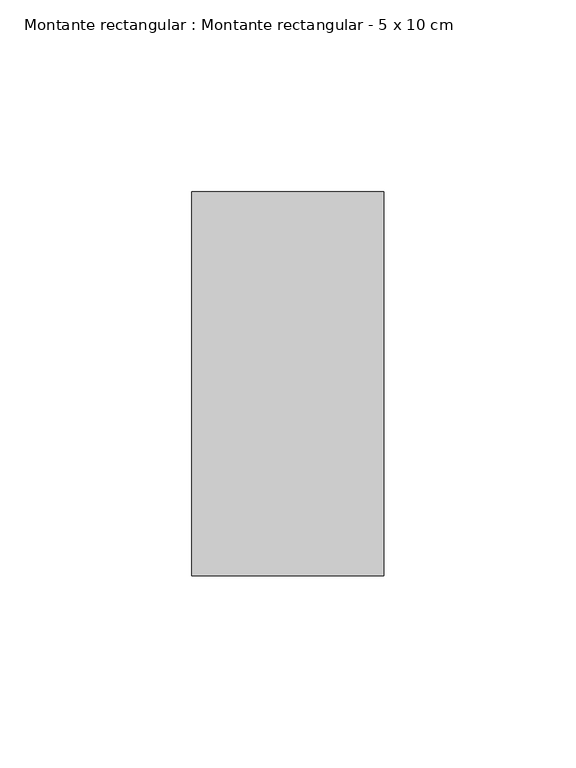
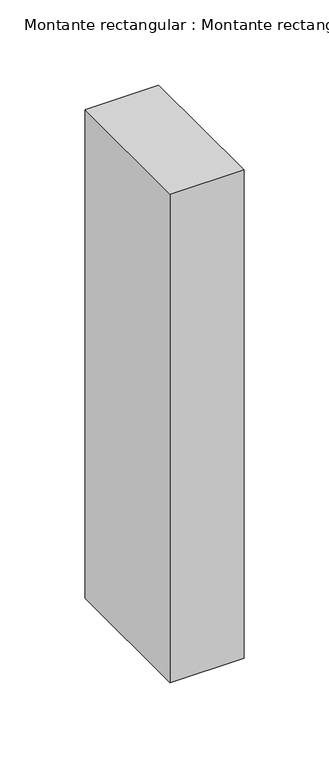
"""IFC4 building model written with IfcOpenShell, lengths in millimetres: member geometry, Montante rectangular : Montante rectangular - 5 x 10 cm."""

import ifcopenshell
import ifcopenshell.guid

model = None  # the IFC model being written
_history = None  # IfcOwnerHistory: only IFC2X3 demands one
_inside = {}  # id of a spatial element -> (the spatial element, [elements in it])
_under = {}  # id of a project, library or spatial element -> (it, [spatial elements below it])
_declared = {}  # id of a project -> (the project, [libraries it declares])
_typed = {}  # id of a type object -> (the type object, [elements of that type])
_made_of = {}  # id of a material, layer set ... -> (it, [elements and type objects made of it])


def new_model(schema):
    """Start an empty IFC model of exactly this schema.

    Asked for "IFC4X3", IfcOpenShell would pick the latest addendum, in which some entities
    have other attributes; the version numbers below select the first issue.
    IFC2X3 requires an IfcOwnerHistory on every rooted entity: one is made here for all.
    """
    global model, _history
    if schema == "IFC4X3":
        model = ifcopenshell.file(schema_version=(4, 3, 0, 0))
    else:
        model = ifcopenshell.file(schema=schema)
    _inside.clear()
    _under.clear()
    _declared.clear()
    _typed.clear()
    _made_of.clear()
    _history = None
    if model.schema == "IFC2X3":
        org = make("IfcOrganization", Name="unknown")
        user = make(
            "IfcPersonAndOrganization",
            ThePerson=make("IfcPerson", FamilyName="unknown"),
            TheOrganization=org,
        )
        app = make(
            "IfcApplication",
            ApplicationDeveloper=org,
            Version="unknown",
            ApplicationFullName="unknown",
            ApplicationIdentifier="unknown",
        )
        _history = make(
            "IfcOwnerHistory",
            OwningUser=user,
            OwningApplication=app,
            ChangeAction="ADDED",
            CreationDate=0,
        )
    return model


def make(cls, **values):
    """One entity of the class cls with the attributes given. An attribute that is None is left unset."""
    return model.create_entity(
        cls, **{name: value for name, value in values.items() if value is not None}
    )


def rooted(cls, **values):
    """An entity with a GlobalId (a new one), such as an element, a storey or a relation."""
    return make(cls, GlobalId=ifcopenshell.guid.new(), OwnerHistory=_history, **values)


def si_unit(unit_type, name, prefix=None):
    """IfcSIUnit, for example si_unit("LENGTHUNIT", "METRE", prefix="MILLI")."""
    return make("IfcSIUnit", UnitType=unit_type, Prefix=prefix, Name=name)


def assignment(units):
    """IfcUnitAssignment: the units of a project."""
    return None if units is None else make("IfcUnitAssignment", Units=units)


def point(xyz):
    """IfcCartesianPoint."""
    return None if xyz is None else make("IfcCartesianPoint", Coordinates=xyz)


def direction(xyz):
    """IfcDirection."""
    return None if xyz is None else make("IfcDirection", DirectionRatios=xyz)


def frame(location, z_axis=None, x_axis=None):
    """IfcAxis2Placement3D, a coordinate frame: its origin and axes. An axis left out is left unset."""
    return make(
        "IfcAxis2Placement3D",
        Location=point(location),
        Axis=direction(z_axis),
        RefDirection=direction(x_axis),
    )


def origin():
    """The frame at (0, 0, 0) with its axes left unset."""
    return frame((0.0, 0.0, 0.0))


def place(relative_to, where):
    """IfcLocalPlacement: puts the frame where relative to a parent placement (None: the world)."""
    return make(
        "IfcLocalPlacement", PlacementRelTo=relative_to, RelativePlacement=where
    )


def context(
    kind, dimensions, precision=None, world=None, true_north=None, identifier=None
):
    """IfcGeometricRepresentationContext, for example the 3D "Model" context."""
    return make(
        "IfcGeometricRepresentationContext",
        ContextIdentifier=identifier,
        ContextType=kind,
        CoordinateSpaceDimension=dimensions,
        Precision=precision,
        WorldCoordinateSystem=world,
        TrueNorth=true_north,
    )


def project(units=None, contexts=None):
    """IfcProject with its units and contexts."""
    return rooted(
        "IfcProject",
        Name="project",
        RepresentationContexts=contexts,
        UnitsInContext=assignment(units),
    )


def spatial(cls, under=None, at=None, **own):
    """A site, building, storey or space (cls), placed at a placement, below another one or the project."""
    s = rooted(cls, ObjectPlacement=at, **own)
    if under is not None:
        _under.setdefault(under.id(), (under, []))[1].append(s)
    return s


def polyline(points):
    """IfcPolyline through the points."""
    return make("IfcPolyline", Points=[point(p) for p in points])


def outline(outer, holes=None, kind="AREA"):
    """IfcArbitraryClosedProfileDef: a profile drawn as a closed curve; with holes, ...WithVoids."""
    if holes is None:
        return make("IfcArbitraryClosedProfileDef", ProfileType=kind, OuterCurve=outer)
    return make(
        "IfcArbitraryProfileDefWithVoids",
        ProfileType=kind,
        OuterCurve=outer,
        InnerCurves=holes,
    )


def extrude(swept, where, along, depth):
    """IfcExtrudedAreaSolid: the profile swept, set in the frame where, extruded along a direction by depth."""
    return make(
        "IfcExtrudedAreaSolid",
        SweptArea=swept,
        Position=where,
        ExtrudedDirection=direction(along),
        Depth=depth,
    )


def shape(context_of_items, identifier, shape_type, items):
    """IfcShapeRepresentation: the items that make up one representation, for example the "Body"."""
    return make(
        "IfcShapeRepresentation",
        ContextOfItems=context_of_items,
        RepresentationIdentifier=identifier,
        RepresentationType=shape_type,
        Items=items,
    )


def source(mapping_origin, context_of_items, identifier, shape_type, items):
    """IfcRepresentationMap: a shape defined once, which mapped items show again and again."""
    return make(
        "IfcRepresentationMap",
        MappingOrigin=mapping_origin,
        MappedRepresentation=shape(context_of_items, identifier, shape_type, items),
    )


def transform(
    local_origin,
    x_axis=None,
    y_axis=None,
    z_axis=None,
    scale=None,
    scale2=None,
    scale3=None,
    uniform=True,
):
    """IfcCartesianTransformationOperator3D, or its non-uniform kind. x_axis, y_axis, z_axis: its Axis1, 2, 3."""
    if uniform:
        return make(
            "IfcCartesianTransformationOperator3D",
            Axis1=direction(x_axis),
            Axis2=direction(y_axis),
            LocalOrigin=point(local_origin),
            Scale=scale,
            Axis3=direction(z_axis),
        )
    return make(
        "IfcCartesianTransformationOperator3DnonUniform",
        Axis1=direction(x_axis),
        Axis2=direction(y_axis),
        LocalOrigin=point(local_origin),
        Scale=scale,
        Axis3=direction(z_axis),
        Scale2=scale2,
        Scale3=scale3,
    )


def mapped(mapping_source, mapping_target):
    """IfcMappedItem: shows the shape of a source again, moved by a transform."""
    return make(
        "IfcMappedItem", MappingSource=mapping_source, MappingTarget=mapping_target
    )


def made_of(thing, what):
    """Note that an element or type object is made of a material, layer set ...; save() writes the relation."""
    if what is not None:
        _made_of.setdefault(what.id(), (what, []))[1].append(thing)
    return thing


def element(
    cls,
    number,
    at=None,
    inside=None,
    cuts=None,
    type_object=None,
    material=None,
    context=None,
    identifier="Body",
    shape_type=None,
    held_by="IfcProductDefinitionShape",
    body=None,
    shapes=None,
    **own,
):
    """One element of the class cls, such as IfcWall. Its Tag is "e" and its number.

    at: its placement. inside: the storey or other place that contains it. cuts: it is an
    opening in that element (IfcRelVoidsElement). A single representation is given by context,
    identifier, shape_type and body (its items); several are given by shapes. held_by: the class
    of the entity that holds the representations. save() writes the other relations.
    """
    e = rooted(cls, Tag="e%d" % number, ObjectPlacement=at, **own)
    if body is not None:
        shapes = [shape(context, identifier, shape_type, body)]
    if shapes is not None:
        e.Representation = make(held_by, Representations=shapes)
    if inside is not None:
        _inside.setdefault(inside.id(), (inside, []))[1].append(e)
    if cuts is not None:
        rooted(
            "IfcRelVoidsElement", RelatingBuildingElement=cuts, RelatedOpeningElement=e
        )
    if type_object is not None:
        _typed.setdefault(type_object.id(), (type_object, []))[1].append(e)
    return made_of(e, material)


def aggregate(whole, parts):
    """IfcRelAggregates: a whole, such as a stair, and the parts it consists of."""
    return rooted("IfcRelAggregates", RelatingObject=whole, RelatedObjects=parts)


def save(model, path):
    """Write the relations noted so far, then the file.

    IfcRelAggregates (storeys below a building ...), IfcRelContainedInSpatialStructure (elements
    in a storey), IfcRelDefinesByType, IfcRelAssociatesMaterial and IfcRelDeclares: one each for
    every whole, place, type object, material and project.
    """
    for whole, parts in _under.values():
        aggregate(whole, parts)
    for where, things in _inside.values():
        rooted(
            "IfcRelContainedInSpatialStructure",
            RelatedElements=things,
            RelatingStructure=where,
        )
    for kind, things in _typed.values():
        rooted("IfcRelDefinesByType", RelatedObjects=things, RelatingType=kind)
    for what, things in _made_of.values():
        rooted("IfcRelAssociatesMaterial", RelatedObjects=things, RelatingMaterial=what)
    for by, libraries in _declared.values():
        rooted("IfcRelDeclares", RelatingContext=by, RelatedDefinitions=libraries)
    model.write(path)


def montante_rectangular_montante_rectangular_5_x_10_cm_1175bf88(model_context):
    return source(origin(), model_context, "Body", "SweptSolid", [
        extrude(outline(polyline([(25.0, 50.0), (25.0, -50.0), (-25.0, -50.0), (-25.0, 50.0), (25.0, 50.0)])), frame((0.0, 0.0, -350.0), z_axis=(0.0, 0.0, 1.0), x_axis=(1.0, 0.0, 0.0)), (0.0, 0.0, 1.0), 350.0),
    ])


if __name__ == "__main__":
    model = new_model("IFC4")
    model_context = context("Model", 3, world=origin())
    ifc_project = project(units=[si_unit("LENGTHUNIT", "METRE", prefix="MILLI")], contexts=[model_context])
    site = spatial("IfcSite", under=ifc_project)
    building = spatial("IfcBuilding", under=site)
    placement = place(None, origin())
    montante_rectangular_montante_rectangular_5_x_10_cm_shape = montante_rectangular_montante_rectangular_5_x_10_cm_1175bf88(model_context)
    element("IfcMember", 1, ObjectType="Montante rectangular : Montante rectangular - 5 x 10 cm", at=placement, inside=building, context=model_context, shape_type="MappedRepresentation", body=[
        mapped(montante_rectangular_montante_rectangular_5_x_10_cm_shape, transform((0.0, 0.0, 0.0), x_axis=(1.0, 0.0, 0.0), y_axis=(0.0, 1.0, 0.0), z_axis=(0.0, 0.0, 1.0))),
    ])
    save(model, "model.ifc")
